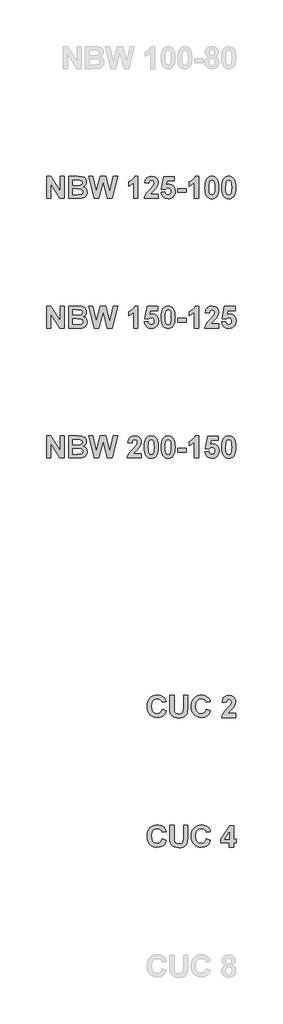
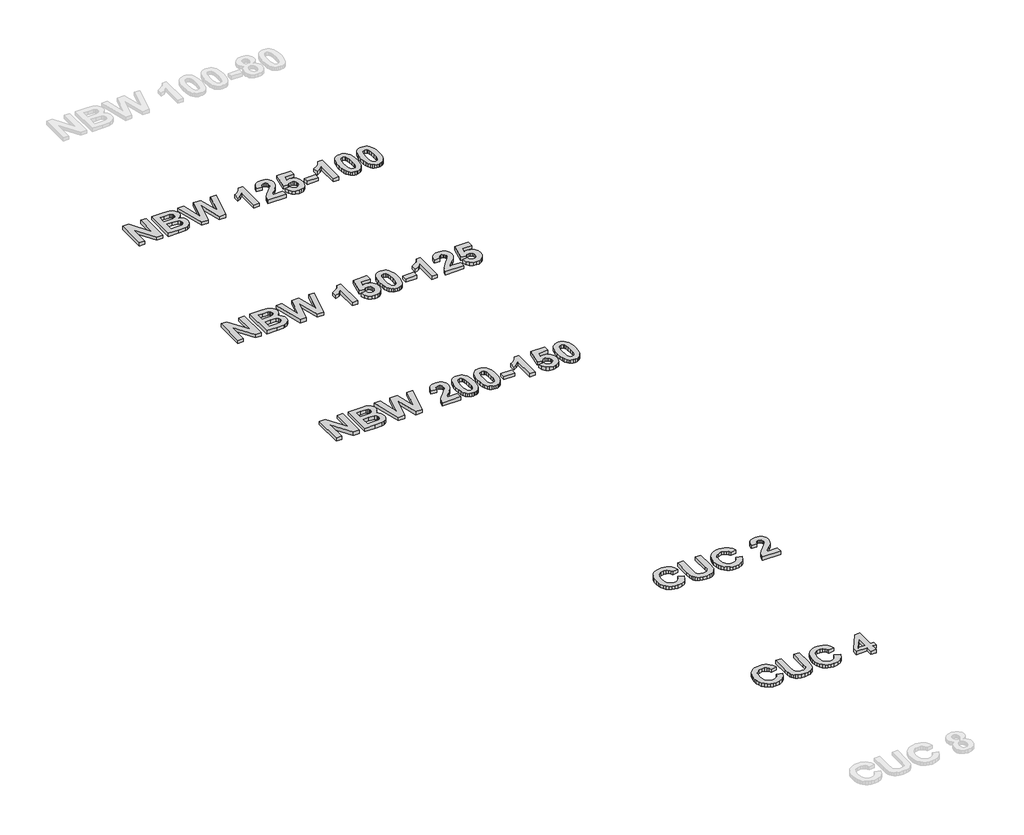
# One storey, part 3 of 9: 5 proxies.
"""IFC4 building model written with IfcOpenShell, lengths in millimetres."""

from ifc_helpers import new_model, si_unit, origin, origin_with_axes, place, context, project, spatial, polyline, outline, extrude, element, save

model = new_model("IFC4")

# Units and contexts
model_context = context("Model", 3, world=origin())
ifc_project = project(units=[si_unit("LENGTHUNIT", "METRE", prefix="MILLI")], contexts=[model_context])

# Site, building, storey
site = spatial("IfcSite", under=ifc_project)
building = spatial("IfcBuilding", under=site)
storey = spatial("IfcBuildingStorey", under=building, Name="Этаж 01", Elevation=0.0)

# Proxies
placement = place(None, origin())
element("IfcBuildingElementProxy", 1, Name="Wellmix_Надпись1", ObjectType="Wellmix_Надпись1", at=placement, inside=storey, context=model_context, shape_type="SweptSolid", body=[
    extrude(outline(polyline([(22666.1517751, -57106.2393741), (22666.1517751, -56851.1745242), (22717.076181, -56851.1745242), (22824.0490632, -57022.8625209), (22824.0490632, -56851.1745242), (22872.6328442, -56851.1745242), (22872.6328442, -57106.2393741), (22820.1269351, -57106.2393741), (22714.7355561, -56937.0817827), (22714.7355561, -57106.2393741), (22666.1517751, -57106.2393741)])), origin_with_axes(), (0.0, 0.0, 1.0), 30.0),
    extrude(outline(polyline([(22921.2166251, -56851.1745242), (23025.9121427, -56851.1745242), (23072.250189, -56853.7049294), (23099.5785657, -56864.3010014), (23110.6253662, -56873.695131), (23119.6636575, -56885.746186), (23125.689185, -56899.940178), (23127.6976942, -56915.7631184), (23125.3017167, -56933.0015042), (23118.1137843, -56948.784907), (23106.8139433, -56961.9588294), (23092.0822402, -56971.3687739), (23110.7123489, -56980.5098629), (23124.4714275, -56994.3954617), (23132.9641001, -57012.0924835), (23135.794991, -57032.6678413), (23133.7627593, -57049.7559843), (23127.6660641, -57066.3538613), (23118.0505241, -57081.0618418), (23105.461758, -57092.4802956), (23089.7495228, -57100.3799045), (23070.7635759, -57104.5313506), (23008.3890863, -57106.2393741), (22921.2166251, -57106.2393741), (22921.2166251, -56851.1745242)]), holes=[polyline([(22969.8004061, -56895.7096567), (22969.8004061, -56952.3907345), (23006.8708431, -56952.3907345), (23047.9899285, -56951.5683528), (23060.9345329, -56948.6109416), (23070.7952059, -56942.7751945), (23077.0342364, -56934.345782), (23079.1139132, -56923.6073747), (23077.318907, -56913.3355108), (23071.9338883, -56905.1670463), (23063.0221173, -56899.449912), (23050.6468541, -56896.5320384), (23002.3161136, -56895.7096567), (22969.8004061, -56895.7096567)]), polyline([(22969.8004061, -56996.925867), (22969.8004061, -57061.7042416), (23021.1676328, -57061.7042416), (23059.2502319, -57060.1859985), (23070.4947203, -57056.7936739), (23079.4302139, -57050.5388284), (23085.265961, -57041.5479822), (23087.21121, -57029.9476556), (23085.7087819, -57019.8892947), (23081.2014976, -57011.4756972), (23063.8682215, -57000.4051742), (23014.6518393, -56996.925867), (22969.8004061, -56996.925867)])]), origin_with_axes(), (0.0, 0.0, 1.0), 30.0),
    extrude(outline(polyline([(23216.1986181, -57106.2393741), (23151.9895846, -56851.1745242), (23201.8385682, -56851.1745242), (23243.0841739, -57026.4050883), (23287.4295261, -56851.1745242), (23352.7772419, -56851.1745242), (23396.9328136, -57029.3150543), (23438.1784193, -56851.1745242), (23488.0274029, -56851.1745242), (23424.7672714, -57106.2393741), (23367.263812, -57106.2393741), (23320.0084938, -56915.573338), (23271.8042736, -57106.2393741), (23216.1986181, -57106.2393741)])), origin_with_axes(), (0.0, 0.0, 1.0), 30.0),
    extrude(outline(polyline([(23722.8490108, -57106.2393741), (23674.2652299, -57106.2393741), (23674.2652299, -56923.9236753), (23646.2093616, -56947.8043749), (23613.5355037, -56964.5366797), (23613.5355037, -56915.9528988), (23633.0038091, -56906.8671624), (23654.0852479, -56892.1354593), (23672.5413913, -56873.1178823), (23684.1338104, -56851.1745242), (23722.8490108, -56851.1745242), (23722.8490108, -57106.2393741)])), origin_with_axes(), (0.0, 0.0, 1.0), 30.0),
    extrude(outline(polyline([(23957.6706187, -57057.6555932), (23957.6706187, -57106.2393741), (23795.7246822, -57106.2393741), (23800.896198, -57081.7339807), (23811.2234144, -57058.5728651), (23830.4070493, -57032.3910782), (23862.1478203, -56998.823671), (23899.7243383, -56958.0841463), (23906.7462129, -56943.3761657), (23909.0868378, -56928.8579656), (23907.1178662, -56914.7114187), (23901.2109514, -56904.2814045), (23891.8405445, -56897.8525936), (23879.4810963, -56895.7096567), (23867.2086308, -56897.8209636), (23857.7196111, -56904.1548842), (23851.3303378, -56915.3756501), (23848.3571116, -56932.1474924), (23799.7733306, -56927.7192832), (23808.3767085, -56892.5703727), (23815.9995544, -56879.3312133), (23825.8365048, -56868.9822512), (23850.460511, -56855.6264559), (23880.5565185, -56851.1745242), (23912.6926653, -56856.164167), (23937.111076, -56871.1330956), (23952.5307331, -56893.5192746), (23957.6706187, -56920.7606687), (23952.040467, -56952.8968155), (23934.20111, -56984.8431819), (23903.9943972, -57016.7262881), (23876.2548296, -57044.3709656), (23867.1453706, -57057.6555932), (23957.6706187, -57057.6555932)])), origin_with_axes(), (0.0, 0.0, 1.0), 30.0),
    extrude(outline(polyline([(23990.059806, -57034.439125), (24034.5949386, -57029.3150543), (24038.7384772, -57044.3867806), (24046.9939243, -57055.9475696), (24058.0960774, -57063.3015599), (24070.7797338, -57065.75289), (24084.9737258, -57063.1513171), (24096.8112779, -57055.3465984), (24104.805777, -57042.3071038), (24107.47061, -57024.0012033), (24104.9955574, -57006.8418926), (24097.5703994, -56994.5852421), (24086.1756683, -56987.2312519), (24071.7918959, -56984.7799218), (24052.9720068, -56989.8407323), (24036.239702, -57005.0231638), (23994.1084545, -56998.7604108), (24022.4489933, -56855.2231726), (24143.9084457, -56855.2231726), (24143.9084457, -56903.8069535), (24061.733535, -56903.8069535), (24051.9282146, -56950.1766299), (24067.4111318, -56942.7277494), (24083.2419797, -56940.2447892), (24111.3611081, -56945.9935537), (24134.8622469, -56963.239847), (24150.7563549, -56989.6588594), (24156.054391, -57022.925781), (24151.6419968, -57051.8514761), (24138.4048143, -57077.5192745), (24125.1874006, -57091.8556018), (24109.6372695, -57102.0958355), (24091.7544211, -57108.2399758), (24071.5388553, -57110.2880226), (24040.5334834, -57105.1481369), (24015.8383096, -57089.7284798), (23998.6236463, -57065.6263698), (23990.059806, -57034.439125)])), origin_with_axes(), (0.0, 0.0, 1.0), 30.0),
    extrude(outline(polyline([(24184.3949298, -57037.4123511), (24184.3949298, -56992.8772186), (24281.5624917, -56992.8772186), (24281.5624917, -57037.4123511), (24184.3949298, -57037.4123511)])), origin_with_axes(), (0.0, 0.0, 1.0), 30.0),
    extrude(outline(polyline([(24423.2651862, -57106.2393741), (24374.6814052, -57106.2393741), (24374.6814052, -56923.9236753), (24346.6255369, -56947.8043749), (24313.951679, -56964.5366797), (24313.951679, -56915.9528988), (24333.4199845, -56906.8671624), (24354.5014233, -56892.1354593), (24372.9575666, -56873.1178823), (24384.5499857, -56851.1745242), (24423.2651862, -56851.1745242), (24423.2651862, -57106.2393741)])), origin_with_axes(), (0.0, 0.0, 1.0), 30.0),
    extrude(outline(polyline([(24577.1138259, -56851.1745242), (24594.2454602, -56852.8192876), (24609.3923079, -56857.7535778), (24622.554369, -56865.9773949), (24633.7316435, -56877.4907388), (24644.3870219, -56895.6187203), (24651.9980065, -56918.8786798), (24656.5645972, -56947.2706176), (24658.0867941, -56980.7945335), (24656.5566897, -57014.2868193), (24651.9663764, -57042.7103871), (24644.3158542, -57066.0652369), (24633.6051232, -57084.3513687), (24622.4832014, -57095.6986547), (24609.3606779, -57103.8038591), (24594.2375527, -57108.6669817), (24577.1138259, -57110.2880226), (24559.8062493, -57108.5088314), (24544.2580951, -57103.1712578), (24530.4693633, -57094.2753018), (24518.4400539, -57081.8209634), (24508.6841555, -57064.8000343), (24501.7156567, -57042.2043061), (24497.5345574, -57014.0337788), (24496.1408576, -56980.2884524), (24497.670962, -56946.9622244), (24502.2612753, -56918.6572694), (24509.9117975, -56895.3735872), (24520.6225285, -56877.111178), (24531.7444503, -56865.763892), (24544.8669739, -56857.6586876), (24559.990099, -56852.795565), (24577.1138259, -56851.1745242)]), holes=[polyline([(24577.1138259, -56895.7096567), (24560.9192322, -56901.0551378), (24554.5932191, -56908.5277408), (24549.9119693, -56920.2545877), (24546.0214712, -56944.4041429), (24544.7246386, -56980.7945335), (24545.879136, -57016.7025656), (24549.3426282, -57039.278525), (24554.5694965, -57052.5315225), (24561.0141224, -57060.470669), (24577.1138259, -57065.75289), (24593.3084195, -57060.4074089), (24599.6344326, -57052.9348059), (24604.3156824, -57041.207959), (24608.2061805, -57017.1849241), (24609.5030132, -56980.7945335), (24608.3485158, -56944.926039), (24604.8850236, -56922.342172), (24599.6581552, -56909.0496369), (24593.2135293, -56901.0551378), (24577.1138259, -56895.7096567)])]), origin_with_axes(), (0.0, 0.0, 1.0), 30.0),
    extrude(outline(polyline([(24771.4489497, -56851.1745242), (24788.580584, -56852.8192876), (24803.7274317, -56857.7535778), (24816.8894928, -56865.9773949), (24828.0667673, -56877.4907388), (24838.7221457, -56895.6187203), (24846.3331303, -56918.8786798), (24850.899721, -56947.2706176), (24852.4219179, -56980.7945335), (24850.8918135, -57014.2868193), (24846.3015002, -57042.7103871), (24838.650978, -57066.0652369), (24827.940247, -57084.3513687), (24816.8183252, -57095.6986547), (24803.6958017, -57103.8038591), (24788.5726765, -57108.6669817), (24771.4489497, -57110.2880226), (24754.1413731, -57108.5088314), (24738.5932189, -57103.1712578), (24724.8044871, -57094.2753018), (24712.7751777, -57081.8209634), (24703.0192793, -57064.8000343), (24696.0507805, -57042.2043061), (24691.8696812, -57014.0337788), (24690.4759814, -56980.2884524), (24692.0060858, -56946.9622244), (24696.5963991, -56918.6572694), (24704.2469213, -56895.3735872), (24714.9576523, -56877.111178), (24726.0795741, -56865.763892), (24739.2020977, -56857.6586876), (24754.3252228, -56852.795565), (24771.4489497, -56851.1745242)]), holes=[polyline([(24771.4489497, -56895.7096567), (24755.254356, -56901.0551378), (24748.9283429, -56908.5277408), (24744.2470931, -56920.2545877), (24740.3565951, -56944.4041429), (24739.0597624, -56980.7945335), (24740.2142598, -57016.7025656), (24743.677752, -57039.278525), (24748.9046203, -57052.5315225), (24755.3492462, -57060.470669), (24771.4489497, -57065.75289), (24787.6435433, -57060.4074089), (24793.9695565, -57052.9348059), (24798.6508062, -57041.207959), (24802.5413043, -57017.1849241), (24803.838137, -56980.7945335), (24802.6836396, -56944.926039), (24799.2201474, -56922.342172), (24793.993279, -56909.0496369), (24787.5486531, -56901.0551378), (24771.4489497, -56895.7096567)])]), origin_with_axes(), (0.0, 0.0, 1.0), 30.0),
])
element("IfcBuildingElementProxy", 2, Name="Wellmix_Надпись1", ObjectType="Wellmix_Надпись1", at=placement, inside=storey, context=model_context, shape_type="SweptSolid", body=[
    extrude(outline(polyline([(22666.1517751, -58606.2393741), (22666.1517751, -58351.1745242), (22717.076181, -58351.1745242), (22824.0490632, -58522.8625209), (22824.0490632, -58351.1745242), (22872.6328442, -58351.1745242), (22872.6328442, -58606.2393741), (22820.1269351, -58606.2393741), (22714.7355561, -58437.0817827), (22714.7355561, -58606.2393741), (22666.1517751, -58606.2393741)])), origin_with_axes(), (0.0, 0.0, 1.0), 30.0),
    extrude(outline(polyline([(22921.2166251, -58351.1745242), (23025.9121427, -58351.1745242), (23072.250189, -58353.7049294), (23099.5785657, -58364.3010014), (23110.6253662, -58373.695131), (23119.6636575, -58385.746186), (23125.689185, -58399.940178), (23127.6976942, -58415.7631184), (23125.3017167, -58433.0015042), (23118.1137843, -58448.784907), (23106.8139433, -58461.9588294), (23092.0822402, -58471.3687739), (23110.7123489, -58480.5098629), (23124.4714275, -58494.3954617), (23132.9641001, -58512.0924835), (23135.794991, -58532.6678413), (23133.7627593, -58549.7559843), (23127.6660641, -58566.3538613), (23118.0505241, -58581.0618418), (23105.461758, -58592.4802956), (23089.7495228, -58600.3799045), (23070.7635759, -58604.5313506), (23008.3890863, -58606.2393741), (22921.2166251, -58606.2393741), (22921.2166251, -58351.1745242)]), holes=[polyline([(22969.8004061, -58395.7096567), (22969.8004061, -58452.3907345), (23006.8708431, -58452.3907345), (23047.9899285, -58451.5683528), (23060.9345329, -58448.6109416), (23070.7952059, -58442.7751945), (23077.0342364, -58434.345782), (23079.1139132, -58423.6073747), (23077.318907, -58413.3355108), (23071.9338883, -58405.1670463), (23063.0221173, -58399.449912), (23050.6468541, -58396.5320384), (23002.3161136, -58395.7096567), (22969.8004061, -58395.7096567)]), polyline([(22969.8004061, -58496.925867), (22969.8004061, -58561.7042416), (23021.1676328, -58561.7042416), (23059.2502319, -58560.1859985), (23070.4947203, -58556.7936739), (23079.4302139, -58550.5388284), (23085.265961, -58541.5479822), (23087.21121, -58529.9476556), (23085.7087819, -58519.8892947), (23081.2014976, -58511.4756972), (23063.8682215, -58500.4051742), (23014.6518393, -58496.925867), (22969.8004061, -58496.925867)])]), origin_with_axes(), (0.0, 0.0, 1.0), 30.0),
    extrude(outline(polyline([(23216.1986181, -58606.2393741), (23151.9895846, -58351.1745242), (23201.8385682, -58351.1745242), (23243.0841739, -58526.4050883), (23287.4295261, -58351.1745242), (23352.7772419, -58351.1745242), (23396.9328136, -58529.3150543), (23438.1784193, -58351.1745242), (23488.0274029, -58351.1745242), (23424.7672714, -58606.2393741), (23367.263812, -58606.2393741), (23320.0084938, -58415.573338), (23271.8042736, -58606.2393741), (23216.1986181, -58606.2393741)])), origin_with_axes(), (0.0, 0.0, 1.0), 30.0),
    extrude(outline(polyline([(23722.8490108, -58606.2393741), (23674.2652299, -58606.2393741), (23674.2652299, -58423.9236753), (23646.2093616, -58447.8043749), (23613.5355037, -58464.5366797), (23613.5355037, -58415.9528988), (23633.0038091, -58406.8671624), (23654.0852479, -58392.1354593), (23672.5413913, -58373.1178823), (23684.1338104, -58351.1745242), (23722.8490108, -58351.1745242), (23722.8490108, -58606.2393741)])), origin_with_axes(), (0.0, 0.0, 1.0), 30.0),
    extrude(outline(polyline([(23795.7246822, -58534.439125), (23840.2598148, -58529.3150543), (23844.4033534, -58544.3867806), (23852.6588005, -58555.9475696), (23863.7609536, -58563.3015599), (23876.44461, -58565.75289), (23890.638602, -58563.1513171), (23902.4761541, -58555.3465984), (23910.4706532, -58542.3071038), (23913.1354862, -58524.0012033), (23910.6604336, -58506.8418926), (23903.2352756, -58494.5852421), (23891.8405445, -58487.2312519), (23877.4567721, -58484.7799218), (23858.636883, -58489.8407323), (23841.9045782, -58505.0231638), (23799.7733306, -58498.7604108), (23828.1138695, -58355.2231726), (23949.5733219, -58355.2231726), (23949.5733219, -58403.8069535), (23867.3984112, -58403.8069535), (23857.5930908, -58450.1766299), (23873.076008, -58442.7277494), (23888.9068559, -58440.2447892), (23917.0259843, -58445.9935537), (23940.5271231, -58463.239847), (23956.4212311, -58489.6588594), (23961.7192672, -58522.925781), (23957.306873, -58551.8514761), (23944.0696905, -58577.5192745), (23930.8522768, -58591.8556018), (23915.3021457, -58602.0958355), (23897.4192973, -58608.2399758), (23877.2037315, -58610.2880226), (23846.1983596, -58605.1481369), (23821.5031858, -58589.7284798), (23804.2885225, -58565.6263698), (23795.7246822, -58534.439125)])), origin_with_axes(), (0.0, 0.0, 1.0), 30.0),
    extrude(outline(polyline([(24071.0327743, -58351.1745242), (24088.1644086, -58352.8192876), (24103.3112564, -58357.7535778), (24116.4733175, -58365.9773949), (24127.6505919, -58377.4907388), (24138.3059703, -58395.6187203), (24145.9169549, -58418.8786798), (24150.4835456, -58447.2706176), (24152.0057425, -58480.7945335), (24150.4756381, -58514.2868193), (24145.8853248, -58542.7103871), (24138.2348027, -58566.0652369), (24127.5240717, -58584.3513687), (24116.4021498, -58595.6986547), (24103.2796263, -58603.8038591), (24088.1565011, -58608.6669817), (24071.0327743, -58610.2880226), (24053.7251977, -58608.5088314), (24038.1770435, -58603.1712578), (24024.3883117, -58594.2753018), (24012.3590024, -58581.8209634), (24002.603104, -58564.8000343), (23995.6346051, -58542.2043061), (23991.4535058, -58514.0337788), (23990.059806, -58480.2884524), (23991.5899105, -58446.9622244), (23996.1802238, -58418.6572694), (24003.8307459, -58395.3735872), (24014.5414769, -58377.111178), (24025.6633988, -58365.763892), (24038.7859223, -58357.6586876), (24053.9090475, -58352.795565), (24071.0327743, -58351.1745242)]), holes=[polyline([(24071.0327743, -58395.7096567), (24054.8381806, -58401.0551378), (24048.5121675, -58408.5277408), (24043.8309178, -58420.2545877), (24039.9404197, -58444.4041429), (24038.643587, -58480.7945335), (24039.7980844, -58516.7025656), (24043.2615766, -58539.278525), (24048.4884449, -58552.5315225), (24054.9330708, -58560.470669), (24071.0327743, -58565.75289), (24087.2273679, -58560.4074089), (24093.5533811, -58552.9348059), (24098.2346308, -58541.207959), (24102.1251289, -58517.1849241), (24103.4219616, -58480.7945335), (24102.2674642, -58444.926039), (24098.803972, -58422.342172), (24093.5771036, -58409.0496369), (24087.1324777, -58401.0551378), (24071.0327743, -58395.7096567)])]), origin_with_axes(), (0.0, 0.0, 1.0), 30.0),
    extrude(outline(polyline([(24184.3949298, -58537.4123511), (24184.3949298, -58492.8772186), (24281.5624917, -58492.8772186), (24281.5624917, -58537.4123511), (24184.3949298, -58537.4123511)])), origin_with_axes(), (0.0, 0.0, 1.0), 30.0),
    extrude(outline(polyline([(24423.2651862, -58606.2393741), (24374.6814052, -58606.2393741), (24374.6814052, -58423.9236753), (24346.6255369, -58447.8043749), (24313.951679, -58464.5366797), (24313.951679, -58415.9528988), (24333.4199845, -58406.8671624), (24354.5014233, -58392.1354593), (24372.9575666, -58373.1178823), (24384.5499857, -58351.1745242), (24423.2651862, -58351.1745242), (24423.2651862, -58606.2393741)])), origin_with_axes(), (0.0, 0.0, 1.0), 30.0),
    extrude(outline(polyline([(24658.0867941, -58557.6555932), (24658.0867941, -58606.2393741), (24496.1408576, -58606.2393741), (24501.3123734, -58581.7339807), (24511.6395898, -58558.5728651), (24530.8232247, -58532.3910782), (24562.5639956, -58498.823671), (24600.1405137, -58458.0841463), (24607.1623883, -58443.3761657), (24609.5030132, -58428.8579656), (24607.5340416, -58414.7114187), (24601.6271268, -58404.2814045), (24592.2567198, -58397.8525936), (24579.8972716, -58395.7096567), (24567.6248061, -58397.8209636), (24558.1357864, -58404.1548842), (24551.7465131, -58415.3756501), (24548.773287, -58432.1474924), (24500.189506, -58427.7192832), (24508.7928839, -58392.5703727), (24516.4157297, -58379.3312133), (24526.2526802, -58368.9822512), (24550.8766863, -58355.6264559), (24580.9726939, -58351.1745242), (24613.1088406, -58356.164167), (24637.5272514, -58371.1330956), (24652.9469084, -58393.5192746), (24658.0867941, -58420.7606687), (24652.4566424, -58452.8968155), (24634.6172853, -58484.8431819), (24604.4105726, -58516.7262881), (24576.6710049, -58544.3709656), (24567.561546, -58557.6555932), (24658.0867941, -58557.6555932)])), origin_with_axes(), (0.0, 0.0, 1.0), 30.0),
    extrude(outline(polyline([(24690.4759814, -58534.439125), (24735.0111139, -58529.3150543), (24739.1546526, -58544.3867806), (24747.4100997, -58555.9475696), (24758.5122528, -58563.3015599), (24771.1959091, -58565.75289), (24785.3899011, -58563.1513171), (24797.2274532, -58555.3465984), (24805.2219523, -58542.3071038), (24807.8867854, -58524.0012033), (24805.4117327, -58506.8418926), (24797.9865748, -58494.5852421), (24786.5918436, -58487.2312519), (24772.2080712, -58484.7799218), (24753.3881821, -58489.8407323), (24736.6558774, -58505.0231638), (24694.5246298, -58498.7604108), (24722.8651687, -58355.2231726), (24844.3246211, -58355.2231726), (24844.3246211, -58403.8069535), (24762.1497103, -58403.8069535), (24752.34439, -58450.1766299), (24767.8273071, -58442.7277494), (24783.658155, -58440.2447892), (24811.7772835, -58445.9935537), (24835.2784223, -58463.239847), (24851.1725303, -58489.6588594), (24856.4705663, -58522.925781), (24852.0581722, -58551.8514761), (24838.8209896, -58577.5192745), (24825.6035759, -58591.8556018), (24810.0534449, -58602.0958355), (24792.1705965, -58608.2399758), (24771.9550307, -58610.2880226), (24740.9496588, -58605.1481369), (24716.254485, -58589.7284798), (24699.0398217, -58565.6263698), (24690.4759814, -58534.439125)])), origin_with_axes(), (0.0, 0.0, 1.0), 30.0),
])
element("IfcBuildingElementProxy", 3, Name="Wellmix_Надпись1", ObjectType="Wellmix_Надпись1", at=placement, inside=storey, context=model_context, shape_type="SweptSolid", body=[
    extrude(outline(polyline([(22666.1517751, -60106.2393741), (22666.1517751, -59851.1745242), (22717.076181, -59851.1745242), (22824.0490632, -60022.8625209), (22824.0490632, -59851.1745242), (22872.6328442, -59851.1745242), (22872.6328442, -60106.2393741), (22820.1269351, -60106.2393741), (22714.7355561, -59937.0817827), (22714.7355561, -60106.2393741), (22666.1517751, -60106.2393741)])), origin_with_axes(), (0.0, 0.0, 1.0), 30.0),
    extrude(outline(polyline([(22921.2166251, -59851.1745242), (23025.9121427, -59851.1745242), (23072.250189, -59853.7049294), (23099.5785657, -59864.3010014), (23110.6253662, -59873.695131), (23119.6636575, -59885.746186), (23125.689185, -59899.940178), (23127.6976942, -59915.7631184), (23125.3017167, -59933.0015042), (23118.1137843, -59948.784907), (23106.8139433, -59961.9588294), (23092.0822402, -59971.3687739), (23110.7123489, -59980.5098629), (23124.4714275, -59994.3954617), (23132.9641001, -60012.0924835), (23135.794991, -60032.6678413), (23133.7627593, -60049.7559843), (23127.6660641, -60066.3538613), (23118.0505241, -60081.0618418), (23105.461758, -60092.4802956), (23089.7495228, -60100.3799045), (23070.7635759, -60104.5313506), (23008.3890863, -60106.2393741), (22921.2166251, -60106.2393741), (22921.2166251, -59851.1745242)]), holes=[polyline([(22969.8004061, -59895.7096567), (22969.8004061, -59952.3907345), (23006.8708431, -59952.3907345), (23047.9899285, -59951.5683528), (23060.9345329, -59948.6109416), (23070.7952059, -59942.7751945), (23077.0342364, -59934.345782), (23079.1139132, -59923.6073747), (23077.318907, -59913.3355108), (23071.9338883, -59905.1670463), (23063.0221173, -59899.449912), (23050.6468541, -59896.5320384), (23002.3161136, -59895.7096567), (22969.8004061, -59895.7096567)]), polyline([(22969.8004061, -59996.925867), (22969.8004061, -60061.7042416), (23021.1676328, -60061.7042416), (23059.2502319, -60060.1859985), (23070.4947203, -60056.7936739), (23079.4302139, -60050.5388284), (23085.265961, -60041.5479822), (23087.21121, -60029.9476556), (23085.7087819, -60019.8892947), (23081.2014976, -60011.4756972), (23063.8682215, -60000.4051742), (23014.6518393, -59996.925867), (22969.8004061, -59996.925867)])]), origin_with_axes(), (0.0, 0.0, 1.0), 30.0),
    extrude(outline(polyline([(23216.1986181, -60106.2393741), (23151.9895846, -59851.1745242), (23201.8385682, -59851.1745242), (23243.0841739, -60026.4050883), (23287.4295261, -59851.1745242), (23352.7772419, -59851.1745242), (23396.9328136, -60029.3150543), (23438.1784193, -59851.1745242), (23488.0274029, -59851.1745242), (23424.7672714, -60106.2393741), (23367.263812, -60106.2393741), (23320.0084938, -59915.573338), (23271.8042736, -60106.2393741), (23216.1986181, -60106.2393741)])), origin_with_axes(), (0.0, 0.0, 1.0), 30.0),
    extrude(outline(polyline([(23763.3354949, -60057.6555932), (23763.3354949, -60106.2393741), (23601.3895584, -60106.2393741), (23606.5610742, -60081.7339807), (23616.8882906, -60058.5728651), (23636.0719255, -60032.3910782), (23667.8126965, -59998.823671), (23705.3892145, -59958.0841463), (23712.4110891, -59943.3761657), (23714.751714, -59928.8579656), (23712.7827424, -59914.7114187), (23706.8758276, -59904.2814045), (23697.5054207, -59897.8525936), (23685.1459725, -59895.7096567), (23672.873507, -59897.8209636), (23663.3844873, -59904.1548842), (23656.995214, -59915.3756501), (23654.0219878, -59932.1474924), (23605.4382068, -59927.7192832), (23614.0415847, -59892.5703727), (23621.6644306, -59879.3312133), (23631.501381, -59868.9822512), (23656.1253872, -59855.6264559), (23686.2213947, -59851.1745242), (23718.3575415, -59856.164167), (23742.7759522, -59871.1330956), (23758.1956093, -59893.5192746), (23763.3354949, -59920.7606687), (23757.7053432, -59952.8968155), (23739.8659862, -59984.8431819), (23709.6592734, -60016.7262881), (23681.9197058, -60044.3709656), (23672.8102468, -60057.6555932), (23763.3354949, -60057.6555932)])), origin_with_axes(), (0.0, 0.0, 1.0), 30.0),
    extrude(outline(polyline([(23876.6976505, -59851.1745242), (23893.8292848, -59852.8192876), (23908.9761326, -59857.7535778), (23922.1381937, -59865.9773949), (23933.3154681, -59877.4907388), (23943.9708465, -59895.6187203), (23951.5818311, -59918.8786798), (23956.1484218, -59947.2706176), (23957.6706187, -59980.7945335), (23956.1405143, -60014.2868193), (23951.550201, -60042.7103871), (23943.8996789, -60066.0652369), (23933.1889479, -60084.3513687), (23922.067026, -60095.6986547), (23908.9445025, -60103.8038591), (23893.8213773, -60108.6669817), (23876.6976505, -60110.2880226), (23859.3900739, -60108.5088314), (23843.8419197, -60103.1712578), (23830.0531879, -60094.2753018), (23818.0238786, -60081.8209634), (23808.2679802, -60064.8000343), (23801.2994813, -60042.2043061), (23797.118382, -60014.0337788), (23795.7246822, -59980.2884524), (23797.2547867, -59946.9622244), (23801.8451, -59918.6572694), (23809.4956221, -59895.3735872), (23820.2063531, -59877.111178), (23831.328275, -59865.763892), (23844.4507985, -59857.6586876), (23859.5739237, -59852.795565), (23876.6976505, -59851.1745242)]), holes=[polyline([(23876.6976505, -59895.7096567), (23860.5030568, -59901.0551378), (23854.1770437, -59908.5277408), (23849.495794, -59920.2545877), (23845.6052959, -59944.4041429), (23844.3084632, -59980.7945335), (23845.4629606, -60016.7025656), (23848.9264528, -60039.278525), (23854.1533211, -60052.5315225), (23860.597947, -60060.470669), (23876.6976505, -60065.75289), (23892.8922441, -60060.4074089), (23899.2182573, -60052.9348059), (23903.899507, -60041.207959), (23907.7900051, -60017.1849241), (23909.0868378, -59980.7945335), (23907.9323404, -59944.926039), (23904.4688482, -59922.342172), (23899.2419798, -59909.0496369), (23892.7973539, -59901.0551378), (23876.6976505, -59895.7096567)])]), origin_with_axes(), (0.0, 0.0, 1.0), 30.0),
    extrude(outline(polyline([(24071.0327743, -59851.1745242), (24088.1644086, -59852.8192876), (24103.3112564, -59857.7535778), (24116.4733175, -59865.9773949), (24127.6505919, -59877.4907388), (24138.3059703, -59895.6187203), (24145.9169549, -59918.8786798), (24150.4835456, -59947.2706176), (24152.0057425, -59980.7945335), (24150.4756381, -60014.2868193), (24145.8853248, -60042.7103871), (24138.2348027, -60066.0652369), (24127.5240717, -60084.3513687), (24116.4021498, -60095.6986547), (24103.2796263, -60103.8038591), (24088.1565011, -60108.6669817), (24071.0327743, -60110.2880226), (24053.7251977, -60108.5088314), (24038.1770435, -60103.1712578), (24024.3883117, -60094.2753018), (24012.3590024, -60081.8209634), (24002.603104, -60064.8000343), (23995.6346051, -60042.2043061), (23991.4535058, -60014.0337788), (23990.059806, -59980.2884524), (23991.5899105, -59946.9622244), (23996.1802238, -59918.6572694), (24003.8307459, -59895.3735872), (24014.5414769, -59877.111178), (24025.6633988, -59865.763892), (24038.7859223, -59857.6586876), (24053.9090475, -59852.795565), (24071.0327743, -59851.1745242)]), holes=[polyline([(24071.0327743, -59895.7096567), (24054.8381806, -59901.0551378), (24048.5121675, -59908.5277408), (24043.8309178, -59920.2545877), (24039.9404197, -59944.4041429), (24038.643587, -59980.7945335), (24039.7980844, -60016.7025656), (24043.2615766, -60039.278525), (24048.4884449, -60052.5315225), (24054.9330708, -60060.470669), (24071.0327743, -60065.75289), (24087.2273679, -60060.4074089), (24093.5533811, -60052.9348059), (24098.2346308, -60041.207959), (24102.1251289, -60017.1849241), (24103.4219616, -59980.7945335), (24102.2674642, -59944.926039), (24098.803972, -59922.342172), (24093.5771036, -59909.0496369), (24087.1324777, -59901.0551378), (24071.0327743, -59895.7096567)])]), origin_with_axes(), (0.0, 0.0, 1.0), 30.0),
    extrude(outline(polyline([(24184.3949298, -60037.4123511), (24184.3949298, -59992.8772186), (24281.5624917, -59992.8772186), (24281.5624917, -60037.4123511), (24184.3949298, -60037.4123511)])), origin_with_axes(), (0.0, 0.0, 1.0), 30.0),
    extrude(outline(polyline([(24423.2651862, -60106.2393741), (24374.6814052, -60106.2393741), (24374.6814052, -59923.9236753), (24346.6255369, -59947.8043749), (24313.951679, -59964.5366797), (24313.951679, -59915.9528988), (24333.4199845, -59906.8671624), (24354.5014233, -59892.1354593), (24372.9575666, -59873.1178823), (24384.5499857, -59851.1745242), (24423.2651862, -59851.1745242), (24423.2651862, -60106.2393741)])), origin_with_axes(), (0.0, 0.0, 1.0), 30.0),
    extrude(outline(polyline([(24496.1408576, -60034.439125), (24540.6759901, -60029.3150543), (24544.8195288, -60044.3867806), (24553.0749759, -60055.9475696), (24564.177129, -60063.3015599), (24576.8607853, -60065.75289), (24591.0547773, -60063.1513171), (24602.8923294, -60055.3465984), (24610.8868285, -60042.3071038), (24613.5516616, -60024.0012033), (24611.0766089, -60006.8418926), (24603.651451, -59994.5852421), (24592.2567198, -59987.2312519), (24577.8729474, -59984.7799218), (24559.0530583, -59989.8407323), (24542.3207536, -60005.0231638), (24500.189506, -59998.7604108), (24528.5300449, -59855.2231726), (24649.9894973, -59855.2231726), (24649.9894973, -59903.8069535), (24567.8145865, -59903.8069535), (24558.0092662, -59950.1766299), (24573.4921833, -59942.7277494), (24589.3230312, -59940.2447892), (24617.4421597, -59945.9935537), (24640.9432985, -59963.239847), (24656.8374065, -59989.6588594), (24662.1354425, -60022.925781), (24657.7230483, -60051.8514761), (24644.4858658, -60077.5192745), (24631.2684521, -60091.8556018), (24615.7183211, -60102.0958355), (24597.8354727, -60108.2399758), (24577.6199069, -60110.2880226), (24546.614535, -60105.1481369), (24521.9193612, -60089.7284798), (24504.7046979, -60065.6263698), (24496.1408576, -60034.439125)])), origin_with_axes(), (0.0, 0.0, 1.0), 30.0),
    extrude(outline(polyline([(24771.4489497, -59851.1745242), (24788.580584, -59852.8192876), (24803.7274317, -59857.7535778), (24816.8894928, -59865.9773949), (24828.0667673, -59877.4907388), (24838.7221457, -59895.6187203), (24846.3331303, -59918.8786798), (24850.899721, -59947.2706176), (24852.4219179, -59980.7945335), (24850.8918135, -60014.2868193), (24846.3015002, -60042.7103871), (24838.650978, -60066.0652369), (24827.940247, -60084.3513687), (24816.8183252, -60095.6986547), (24803.6958017, -60103.8038591), (24788.5726765, -60108.6669817), (24771.4489497, -60110.2880226), (24754.1413731, -60108.5088314), (24738.5932189, -60103.1712578), (24724.8044871, -60094.2753018), (24712.7751777, -60081.8209634), (24703.0192793, -60064.8000343), (24696.0507805, -60042.2043061), (24691.8696812, -60014.0337788), (24690.4759814, -59980.2884524), (24692.0060858, -59946.9622244), (24696.5963991, -59918.6572694), (24704.2469213, -59895.3735872), (24714.9576523, -59877.111178), (24726.0795741, -59865.763892), (24739.2020977, -59857.6586876), (24754.3252228, -59852.795565), (24771.4489497, -59851.1745242)]), holes=[polyline([(24771.4489497, -59895.7096567), (24755.254356, -59901.0551378), (24748.9283429, -59908.5277408), (24744.2470931, -59920.2545877), (24740.3565951, -59944.4041429), (24739.0597624, -59980.7945335), (24740.2142598, -60016.7025656), (24743.677752, -60039.278525), (24748.9046203, -60052.5315225), (24755.3492462, -60060.470669), (24771.4489497, -60065.75289), (24787.6435433, -60060.4074089), (24793.9695565, -60052.9348059), (24798.6508062, -60041.207959), (24802.5413043, -60017.1849241), (24803.838137, -59980.7945335), (24802.6836396, -59944.926039), (24799.2201474, -59922.342172), (24793.993279, -59909.0496369), (24787.5486531, -59901.0551378), (24771.4489497, -59895.7096567)])]), origin_with_axes(), (0.0, 0.0, 1.0), 30.0),
])
element("IfcBuildingElementProxy", 4, Name="Wellmix_Надпись1", ObjectType="Wellmix_Надпись1", at=placement, inside=storey, context=model_context, shape_type="SweptSolid", body=[
    extrude(outline(polyline([(24002.2057513, -63009.0718122), (24050.7895322, -63025.2664059), (24035.4647654, -63061.0479177), (24024.9438148, -63074.9829386), (24012.5171527, -63086.2808027), (23982.1522896, -63101.2497313), (23944.5757715, -63106.2393741), (23920.2482972, -63104.1082985), (23898.1902801, -63097.7150714), (23878.4017203, -63087.059693), (23860.8826176, -63072.1421633), (23846.5462903, -63053.5278696), (23836.3060566, -63031.7821994), (23830.1619163, -63006.9051527), (23828.1138695, -62978.8967295), (23830.1797082, -62949.3621557), (23836.3772242, -62923.3227041), (23846.7064175, -62900.7783747), (23861.1672882, -62881.7291676), (23878.9967609, -62866.5902274), (23899.4317602, -62855.7766987), (23922.4722862, -62849.2885815), (23948.1183389, -62847.1258757), (23970.5440555, -62848.9090207), (23990.7556675, -62854.2584556), (24008.7531749, -62863.1741803), (24024.5365777, -62875.656195), (24039.8613445, -62896.1682926), (24050.7895322, -62924.0501956), (24002.2057513, -62932.1474924), (23994.7647783, -62915.34402), (23982.0573994, -62902.5101208), (23965.0641466, -62894.3732864), (23944.7655519, -62891.6610083), (23917.3185624, -62896.587391), (23895.5807997, -62911.3665392), (23887.3194219, -62922.7434785), (23881.4184378, -62937.1687653), (23876.6976505, -62975.1643818), (23881.2761025, -63015.2396751), (23886.9991675, -63030.2244187), (23895.0114585, -63041.8405603), (23916.0849898, -63056.7383213), (23942.6779676, -63061.7042416), (23962.7551518, -63058.5333275), (23979.8432948, -63049.0205853), (23993.2307201, -63032.6915638), (24002.2057513, -63009.0718122)])), origin_with_axes(), (0.0, 0.0, 1.0), 30.0),
    extrude(outline(polyline([(24091.2760164, -62851.1745242), (24139.8597973, -62851.1745242), (24139.8597973, -62988.7653101), (24141.9473816, -63031.2761184), (24148.0361693, -63045.31196), (24159.0908773, -63056.2955004), (24175.1115056, -63063.3885426), (24196.0980542, -63065.75289), (24217.0608802, -63063.5229704), (24232.124699, -63056.8332115), (24241.8272217, -63046.8934633), (24246.7061593, -63034.9135759), (24249.1733044, -62991.7385362), (24249.1733044, -62851.1745242), (24297.7570854, -62851.1745242), (24297.7570854, -62984.9697022), (24293.5186566, -63049.8113369), (24287.4931291, -63067.2632257), (24277.8934041, -63081.7893333), (24264.585054, -63093.5161802), (24247.4336508, -63102.5702865), (24225.4428476, -63108.3585885), (24197.6162973, -63110.2880226), (24165.0215146, -63108.1846232), (24141.3780405, -63101.8744251), (24124.2187298, -63092.195625), (24111.0764375, -63079.9864196), (24101.8404583, -63066.1798959), (24096.400087, -63051.7091408), (24092.557034, -63024.6021745), (24091.2760164, -62987.0572865), (24091.2760164, -62851.1745242)])), origin_with_axes(), (0.0, 0.0, 1.0), 30.0),
    extrude(outline(polyline([(24512.3354513, -63009.0718122), (24560.9192322, -63025.2664059), (24545.5944654, -63061.0479177), (24535.0735148, -63074.9829386), (24522.6468527, -63086.2808027), (24492.2819896, -63101.2497313), (24454.7054715, -63106.2393741), (24430.3779972, -63104.1082985), (24408.3199801, -63097.7150714), (24388.5314203, -63087.059693), (24371.0123176, -63072.1421633), (24356.6759903, -63053.5278696), (24346.4357565, -63031.7821994), (24340.2916163, -63006.9051527), (24338.2435695, -62978.8967295), (24340.3094082, -62949.3621557), (24346.5069242, -62923.3227041), (24356.8361175, -62900.7783747), (24371.2969882, -62881.7291676), (24389.1264609, -62866.5902274), (24409.5614602, -62855.7766987), (24432.6019862, -62849.2885815), (24458.2480389, -62847.1258757), (24480.6737555, -62848.9090207), (24500.8853675, -62854.2584556), (24518.8828749, -62863.1741803), (24534.6662777, -62875.656195), (24549.9910445, -62896.1682926), (24560.9192322, -62924.0501956), (24512.3354513, -62932.1474924), (24504.8944783, -62915.34402), (24492.1870994, -62902.5101208), (24475.1938466, -62894.3732864), (24454.8952519, -62891.6610083), (24427.4482624, -62896.587391), (24405.7104997, -62911.3665392), (24397.4491219, -62922.7434785), (24391.5481378, -62937.1687653), (24386.8273505, -62975.1643818), (24391.4058025, -63015.2396751), (24397.1288675, -63030.2244187), (24405.1411585, -63041.8405603), (24426.2146898, -63056.7383213), (24452.8076676, -63061.7042416), (24472.8848518, -63058.5333275), (24489.9729948, -63049.0205853), (24503.3604201, -63032.6915638), (24512.3354513, -63009.0718122)])), origin_with_axes(), (0.0, 0.0, 1.0), 30.0),
    extrude(outline(polyline([(24852.4219179, -63057.6555932), (24852.4219179, -63106.2393741), (24690.4759814, -63106.2393741), (24695.6474972, -63081.7339807), (24705.9747136, -63058.5728651), (24725.1583485, -63032.3910782), (24756.8991194, -62998.823671), (24794.4756375, -62958.0841463), (24801.4975121, -62943.3761657), (24803.838137, -62928.8579656), (24801.8691654, -62914.7114187), (24795.9622506, -62904.2814045), (24786.5918436, -62897.8525936), (24774.2323954, -62895.7096567), (24761.9599299, -62897.8209636), (24752.4709102, -62904.1548842), (24746.0816369, -62915.3756501), (24743.1084108, -62932.1474924), (24694.5246298, -62927.7192832), (24703.1280077, -62892.5703727), (24710.7508535, -62879.3312133), (24720.587804, -62868.9822512), (24745.2118101, -62855.6264559), (24775.3078177, -62851.1745242), (24807.4439644, -62856.164167), (24831.8623752, -62871.1330956), (24847.2820322, -62893.5192746), (24852.4219179, -62920.7606687), (24846.7917662, -62952.8968155), (24828.9524091, -62984.8431819), (24798.7456964, -63016.7262881), (24771.0061287, -63044.3709656), (24761.8966698, -63057.6555932), (24852.4219179, -63057.6555932)])), origin_with_axes(), (0.0, 0.0, 1.0), 30.0),
])
element("IfcBuildingElementProxy", 5, Name="Wellmix_Надпись1", ObjectType="Wellmix_Надпись1", at=placement, inside=storey, context=model_context, shape_type="SweptSolid", body=[
    extrude(outline(polyline([(24002.2057513, -64509.0718122), (24050.7895322, -64525.2664059), (24035.4647654, -64561.0479177), (24024.9438148, -64574.9829386), (24012.5171527, -64586.2808027), (23982.1522896, -64601.2497313), (23944.5757715, -64606.2393741), (23920.2482972, -64604.1082985), (23898.1902801, -64597.7150714), (23878.4017203, -64587.059693), (23860.8826176, -64572.1421633), (23846.5462903, -64553.5278696), (23836.3060566, -64531.7821994), (23830.1619163, -64506.9051527), (23828.1138695, -64478.8967295), (23830.1797082, -64449.3621557), (23836.3772242, -64423.3227041), (23846.7064175, -64400.7783747), (23861.1672882, -64381.7291676), (23878.9967609, -64366.5902274), (23899.4317602, -64355.7766987), (23922.4722862, -64349.2885815), (23948.1183389, -64347.1258757), (23970.5440555, -64348.9090207), (23990.7556675, -64354.2584556), (24008.7531749, -64363.1741803), (24024.5365777, -64375.656195), (24039.8613445, -64396.1682926), (24050.7895322, -64424.0501956), (24002.2057513, -64432.1474924), (23994.7647783, -64415.34402), (23982.0573994, -64402.5101208), (23965.0641466, -64394.3732864), (23944.7655519, -64391.6610083), (23917.3185624, -64396.587391), (23895.5807997, -64411.3665392), (23887.3194219, -64422.7434785), (23881.4184378, -64437.1687653), (23876.6976505, -64475.1643818), (23881.2761025, -64515.2396751), (23886.9991675, -64530.2244187), (23895.0114585, -64541.8405603), (23916.0849898, -64556.7383213), (23942.6779676, -64561.7042416), (23962.7551518, -64558.5333275), (23979.8432948, -64549.0205853), (23993.2307201, -64532.6915638), (24002.2057513, -64509.0718122)])), origin_with_axes(), (0.0, 0.0, 1.0), 30.0),
    extrude(outline(polyline([(24091.2760164, -64351.1745242), (24139.8597973, -64351.1745242), (24139.8597973, -64488.7653101), (24141.9473816, -64531.2761184), (24148.0361693, -64545.31196), (24159.0908773, -64556.2955004), (24175.1115056, -64563.3885426), (24196.0980542, -64565.75289), (24217.0608802, -64563.5229704), (24232.124699, -64556.8332115), (24241.8272217, -64546.8934633), (24246.7061593, -64534.9135759), (24249.1733044, -64491.7385362), (24249.1733044, -64351.1745242), (24297.7570854, -64351.1745242), (24297.7570854, -64484.9697022), (24293.5186566, -64549.8113369), (24287.4931291, -64567.2632257), (24277.8934041, -64581.7893333), (24264.585054, -64593.5161802), (24247.4336508, -64602.5702865), (24225.4428476, -64608.3585885), (24197.6162973, -64610.2880226), (24165.0215146, -64608.1846232), (24141.3780405, -64601.8744251), (24124.2187298, -64592.195625), (24111.0764375, -64579.9864196), (24101.8404583, -64566.1798959), (24096.400087, -64551.7091408), (24092.557034, -64524.6021745), (24091.2760164, -64487.0572865), (24091.2760164, -64351.1745242)])), origin_with_axes(), (0.0, 0.0, 1.0), 30.0),
    extrude(outline(polyline([(24512.3354513, -64509.0718122), (24560.9192322, -64525.2664059), (24545.5944654, -64561.0479177), (24535.0735148, -64574.9829386), (24522.6468527, -64586.2808027), (24492.2819896, -64601.2497313), (24454.7054715, -64606.2393741), (24430.3779972, -64604.1082985), (24408.3199801, -64597.7150714), (24388.5314203, -64587.059693), (24371.0123176, -64572.1421633), (24356.6759903, -64553.5278696), (24346.4357565, -64531.7821994), (24340.2916163, -64506.9051527), (24338.2435695, -64478.8967295), (24340.3094082, -64449.3621557), (24346.5069242, -64423.3227041), (24356.8361175, -64400.7783747), (24371.2969882, -64381.7291676), (24389.1264609, -64366.5902274), (24409.5614602, -64355.7766987), (24432.6019862, -64349.2885815), (24458.2480389, -64347.1258757), (24480.6737555, -64348.9090207), (24500.8853675, -64354.2584556), (24518.8828749, -64363.1741803), (24534.6662777, -64375.656195), (24549.9910445, -64396.1682926), (24560.9192322, -64424.0501956), (24512.3354513, -64432.1474924), (24504.8944783, -64415.34402), (24492.1870994, -64402.5101208), (24475.1938466, -64394.3732864), (24454.8952519, -64391.6610083), (24427.4482624, -64396.587391), (24405.7104997, -64411.3665392), (24397.4491219, -64422.7434785), (24391.5481378, -64437.1687653), (24386.8273505, -64475.1643818), (24391.4058025, -64515.2396751), (24397.1288675, -64530.2244187), (24405.1411585, -64541.8405603), (24426.2146898, -64556.7383213), (24452.8076676, -64561.7042416), (24472.8848518, -64558.5333275), (24489.9729948, -64549.0205853), (24503.3604201, -64532.6915638), (24512.3354513, -64509.0718122)])), origin_with_axes(), (0.0, 0.0, 1.0), 30.0),
    extrude(outline(polyline([(24779.5462465, -64606.2393741), (24779.5462465, -64553.6069448), (24682.3786846, -64553.6069448), (24682.3786846, -64513.3102411), (24785.9987799, -64355.2231726), (24828.1300274, -64355.2231726), (24828.1300274, -64513.1204607), (24860.5192147, -64513.1204607), (24860.5192147, -64553.6069448), (24828.1300274, -64553.6069448), (24828.1300274, -64606.2393741), (24779.5462465, -64606.2393741)]), holes=[polyline([(24779.5462465, -64513.1204607), (24779.5462465, -64430.2496885), (24725.2690537, -64513.1204607), (24779.5462465, -64513.1204607)])]), origin_with_axes(), (0.0, 0.0, 1.0), 30.0),
])

save(model, "model.ifc")
